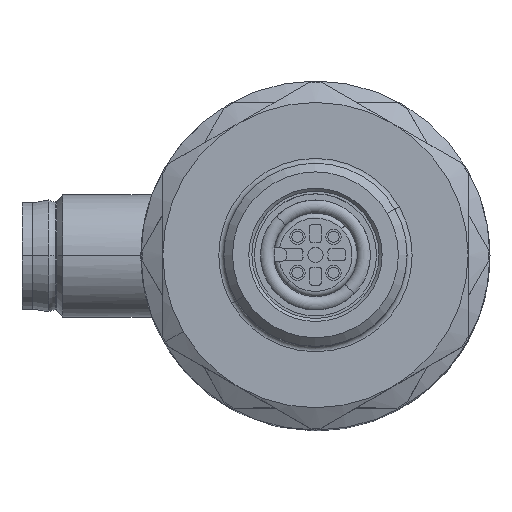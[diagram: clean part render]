
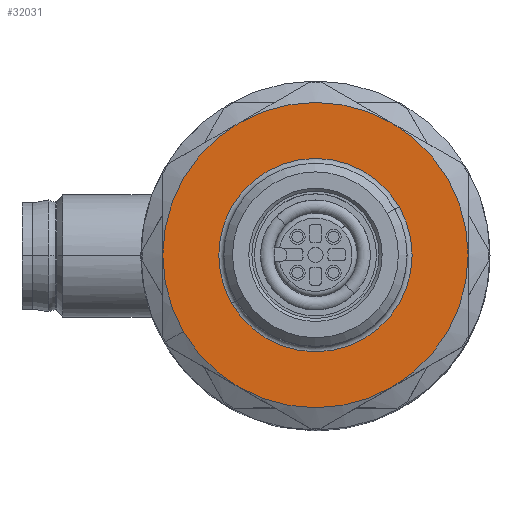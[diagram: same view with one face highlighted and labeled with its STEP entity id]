
A CAD part, top view. The second image highlights one B-rep face of the part: STEP entity #32031.
In plain terms, the highlighted planar face has unit normal (0, 0, 1).
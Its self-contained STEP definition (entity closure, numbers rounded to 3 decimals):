
#57 = VERTEX_POINT ( 'NONE', #7865 ) ;
#59 = VERTEX_POINT ( 'NONE', #7867 ) ;
#60 = VERTEX_POINT ( 'NONE', #7868 ) ;
#62 = VERTEX_POINT ( 'NONE', #7870 ) ;
#63 = VERTEX_POINT ( 'NONE', #7871 ) ;
#1136 = VERTEX_POINT ( 'NONE', #8548 ) ;
#1955 = EDGE_CURVE ( 'NONE', #3148, #1136, #14190, .T. ) ;
#2018 = EDGE_CURVE ( 'NONE', #3139, #3145, #10707, .T. ) ;
#3139 = VERTEX_POINT ( 'NONE', #13026 ) ;
#3145 = VERTEX_POINT ( 'NONE', #13031 ) ;
#3148 = VERTEX_POINT ( 'NONE', #13034 ) ;
#4461 = EDGE_CURVE ( 'NONE', #57, #3148, #14640, .T. ) ;
#4464 = EDGE_CURVE ( 'NONE', #60, #59, #14638, .T. ) ;
#4467 = EDGE_CURVE ( 'NONE', #62, #60, #14641, .T. ) ;
#4470 = EDGE_CURVE ( 'NONE', #63, #62, #14643, .T. ) ;
#4471 = EDGE_CURVE ( 'NONE', #1136, #63, #14645, .T. ) ;
#4485 = EDGE_CURVE ( 'NONE', #59, #57, #14667, .T. ) ;
#4487 = EDGE_CURVE ( 'NONE', #3145, #3139, #14669, .T. ) ;
#5070 = ORIENTED_EDGE ( 'NONE', *, *, #4487, .T. ) ;
#5071 = ORIENTED_EDGE ( 'NONE', *, *, #2018, .T. ) ;
#5072 = ORIENTED_EDGE ( 'NONE', *, *, #4461, .F. ) ;
#5073 = ORIENTED_EDGE ( 'NONE', *, *, #4485, .F. ) ;
#5074 = ORIENTED_EDGE ( 'NONE', *, *, #4464, .F. ) ;
#5075 = ORIENTED_EDGE ( 'NONE', *, *, #4467, .F. ) ;
#5076 = ORIENTED_EDGE ( 'NONE', *, *, #4470, .F. ) ;
#5077 = ORIENTED_EDGE ( 'NONE', *, *, #4471, .F. ) ;
#5078 = ORIENTED_EDGE ( 'NONE', *, *, #1955, .F. ) ;
#7865 = CARTESIAN_POINT ( 'NONE',  ( -8.665, 3.33, 50.764 ) ) ;
#7867 = CARTESIAN_POINT ( 'NONE',  ( -1.165, 16.32, 50.764 ) ) ;
#7868 = CARTESIAN_POINT ( 'NONE',  ( -8.665, 29.311, 50.764 ) ) ;
#7870 = CARTESIAN_POINT ( 'NONE',  ( -23.665, 29.311, 50.764 ) ) ;
#7871 = CARTESIAN_POINT ( 'NONE',  ( -31.165, 16.32, 50.764 ) ) ;
#8548 = CARTESIAN_POINT ( 'NONE',  ( -29.155, 8.82, 50.764 ) ) ;
#10401 = CARTESIAN_POINT ( 'NONE',  ( -16.165, 16.32, 50.764 ) ) ;
#10402 = DIRECTION ( 'NONE',  ( 0., 0., -1. ) ) ;
#10403 = DIRECTION ( 'NONE',  ( -0.866, -0.5, 0. ) ) ;
#10635 = CARTESIAN_POINT ( 'NONE',  ( -16.165, 16.32, 50.764 ) ) ;
#10636 = DIRECTION ( 'NONE',  ( 0., 0., -1. ) ) ;
#10637 = DIRECTION ( 'NONE',  ( -0.866, -0.5, 0. ) ) ;
#10660 = AXIS2_PLACEMENT_3D ( 'NONE', #10635, #10636, #10637 ) ;
#10707 = CIRCLE ( 'NONE', #10660, 9.5 ) ;
#13026 = CARTESIAN_POINT ( 'NONE',  ( -7.938, 21.07, 50.764 ) ) ;
#13031 = CARTESIAN_POINT ( 'NONE',  ( -24.392, 11.57, 50.764 ) ) ;
#13034 = CARTESIAN_POINT ( 'NONE',  ( -23.665, 3.33, 50.764 ) ) ;
#14190 = CIRCLE ( 'NONE', #14201, 15. ) ;
#14201 = AXIS2_PLACEMENT_3D ( 'NONE', #10401, #10402, #10403 ) ;
#14638 = CIRCLE ( 'NONE', #14644, 15. ) ;
#14640 = CIRCLE ( 'NONE', #14642, 15. ) ;
#14641 = CIRCLE ( 'NONE', #14646, 15. ) ;
#14642 = AXIS2_PLACEMENT_3D ( 'NONE', #16548, #16549, #16550 ) ;
#14643 = CIRCLE ( 'NONE', #14648, 15. ) ;
#14644 = AXIS2_PLACEMENT_3D ( 'NONE', #16565, #16566, #16567 ) ;
#14645 = CIRCLE ( 'NONE', #14650, 15. ) ;
#14646 = AXIS2_PLACEMENT_3D ( 'NONE', #16582, #16583, #16584 ) ;
#14648 = AXIS2_PLACEMENT_3D ( 'NONE', #16599, #16600, #16601 ) ;
#14650 = AXIS2_PLACEMENT_3D ( 'NONE', #16603, #16604, #16605 ) ;
#14667 = CIRCLE ( 'NONE', #14668, 15. ) ;
#14668 = AXIS2_PLACEMENT_3D ( 'NONE', #16663, #16664, #16665 ) ;
#14669 = CIRCLE ( 'NONE', #14670, 9.5 ) ;
#14670 = AXIS2_PLACEMENT_3D ( 'NONE', #16672, #16673, #16674 ) ;
#16548 = CARTESIAN_POINT ( 'NONE',  ( -16.165, 16.32, 50.764 ) ) ;
#16549 = DIRECTION ( 'NONE',  ( 0., 0., -1. ) ) ;
#16550 = DIRECTION ( 'NONE',  ( -0.866, -0.5, 0. ) ) ;
#16565 = CARTESIAN_POINT ( 'NONE',  ( -16.165, 16.32, 50.764 ) ) ;
#16566 = DIRECTION ( 'NONE',  ( 0., 0., -1. ) ) ;
#16567 = DIRECTION ( 'NONE',  ( -0.866, -0.5, 0. ) ) ;
#16582 = CARTESIAN_POINT ( 'NONE',  ( -16.165, 16.32, 50.764 ) ) ;
#16583 = DIRECTION ( 'NONE',  ( 0., 0., -1. ) ) ;
#16584 = DIRECTION ( 'NONE',  ( -0.866, -0.5, 0. ) ) ;
#16599 = CARTESIAN_POINT ( 'NONE',  ( -16.165, 16.32, 50.764 ) ) ;
#16600 = DIRECTION ( 'NONE',  ( 0., 0., -1. ) ) ;
#16601 = DIRECTION ( 'NONE',  ( -0.866, -0.5, 0. ) ) ;
#16603 = CARTESIAN_POINT ( 'NONE',  ( -16.165, 16.32, 50.764 ) ) ;
#16604 = DIRECTION ( 'NONE',  ( 0., 0., -1. ) ) ;
#16605 = DIRECTION ( 'NONE',  ( -0.866, -0.5, 0. ) ) ;
#16663 = CARTESIAN_POINT ( 'NONE',  ( -16.165, 16.32, 50.764 ) ) ;
#16664 = DIRECTION ( 'NONE',  ( 0., 0., -1. ) ) ;
#16665 = DIRECTION ( 'NONE',  ( -0.866, -0.5, 0. ) ) ;
#16672 = CARTESIAN_POINT ( 'NONE',  ( -16.165, 16.32, 50.764 ) ) ;
#16673 = DIRECTION ( 'NONE',  ( 0., 0., -1. ) ) ;
#16674 = DIRECTION ( 'NONE',  ( -0.866, -0.5, 0. ) ) ;
#22224 = AXIS2_PLACEMENT_3D ( 'NONE', #26391, #26398, #26399 ) ;
#26391 = CARTESIAN_POINT ( 'NONE',  ( -11.415, 8.093, 50.764 ) ) ;
#26392 = FACE_BOUND ( 'NONE', #32971, .T. ) ;
#26395 = FACE_OUTER_BOUND ( 'NONE', #32706, .T. ) ;
#26396 = PLANE ( 'NONE',  #22224 ) ;
#26398 = DIRECTION ( 'NONE',  ( 0., 0., 1. ) ) ;
#26399 = DIRECTION ( 'NONE',  ( 0.866, 0.5, 0. ) ) ;
#32031 = ADVANCED_FACE ( 'NONE', ( #26392, #26395 ), #26396, .T. ) ;
#32706 = EDGE_LOOP ( 'NONE', ( #5072, #5073, #5074, #5075, #5076, #5077, #5078 ) ) ;
#32971 = EDGE_LOOP ( 'NONE', ( #5070, #5071 ) ) ;
